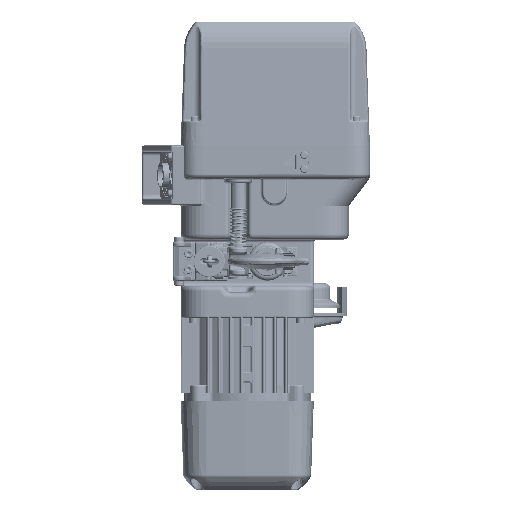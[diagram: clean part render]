
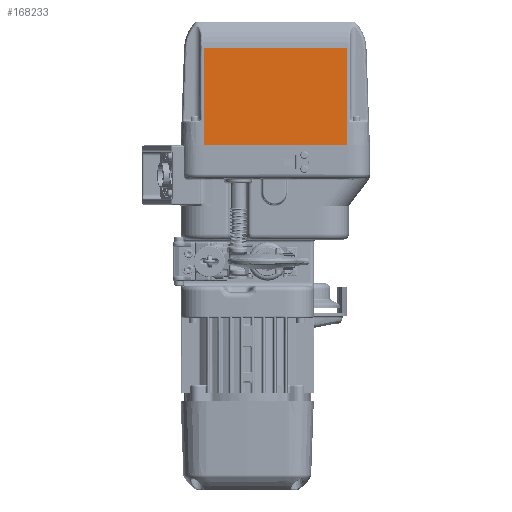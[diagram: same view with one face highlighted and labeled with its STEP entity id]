
A CAD part, front view. The second image highlights one B-rep face of the part: STEP entity #168233.
In plain terms, the highlighted planar face has unit normal (0, -0.999, 0.035).
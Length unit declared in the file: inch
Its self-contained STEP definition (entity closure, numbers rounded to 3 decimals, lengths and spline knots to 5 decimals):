
#2674 = CARTESIAN_POINT ( 'NONE',  ( 3.22231, -3.13544, 4.35172 ) ) ;
#6346 = AXIS2_PLACEMENT_3D ( 'NONE', #86728, #178699, #133786 ) ;
#14472 = CARTESIAN_POINT ( 'NONE',  ( -3.22231, -3.2874, 0. ) ) ;
#23491 = PLANE ( 'NONE',  #6346 ) ;
#25380 = VECTOR ( 'NONE', #70191, 39.37008 ) ;
#50451 = VECTOR ( 'NONE', #57363, 39.37008 ) ;
#56444 = ORIENTED_EDGE ( 'NONE', *, *, #132779, .F. ) ;
#57363 = DIRECTION ( 'NONE',  ( 0., -0.035, -0.999 ) ) ;
#61024 = VERTEX_POINT ( 'NONE', #148950 ) ;
#62655 = VERTEX_POINT ( 'NONE', #82176 ) ;
#69395 = LINE ( 'NONE', #129708, #79610 ) ;
#70191 = DIRECTION ( 'NONE',  ( 0., -0.035, -0.999 ) ) ;
#72135 = CARTESIAN_POINT ( 'NONE',  ( -3.22231, -3.2874, 0. ) ) ;
#76557 = EDGE_CURVE ( 'NONE', #62655, #184445, #69395, .T. ) ;
#76721 = LINE ( 'NONE', #14472, #50451 ) ;
#79610 = VECTOR ( 'NONE', #163330, 39.37008 ) ;
#82176 = CARTESIAN_POINT ( 'NONE',  ( 3.22231, -3.2874, 0. ) ) ;
#86461 = LINE ( 'NONE', #147808, #25380 ) ;
#86728 = CARTESIAN_POINT ( 'NONE',  ( 0., -3.2874, 0. ) ) ;
#98121 = ORIENTED_EDGE ( 'NONE', *, *, #147668, .T. ) ;
#112256 = ORIENTED_EDGE ( 'NONE', *, *, #76557, .F. ) ;
#127071 = EDGE_CURVE ( 'NONE', #61024, #184445, #76721, .T. ) ;
#129708 = CARTESIAN_POINT ( 'NONE',  ( 0., -3.2874, 0. ) ) ;
#131778 = FACE_OUTER_BOUND ( 'NONE', #170824, .T. ) ;
#132779 = EDGE_CURVE ( 'NONE', #177283, #62655, #86461, .T. ) ;
#133786 = DIRECTION ( 'NONE',  ( 0., -0.035, -0.999 ) ) ;
#146825 = VECTOR ( 'NONE', #160158, 39.37008 ) ;
#147668 = EDGE_CURVE ( 'NONE', #177283, #61024, #187789, .T. ) ;
#147808 = CARTESIAN_POINT ( 'NONE',  ( 3.22231, -3.2874, 0. ) ) ;
#148950 = CARTESIAN_POINT ( 'NONE',  ( -3.22231, -3.13544, 4.35172 ) ) ;
#160158 = DIRECTION ( 'NONE',  ( -1., 0., 0. ) ) ;
#163330 = DIRECTION ( 'NONE',  ( -1., 0., 0. ) ) ;
#168233 = ADVANCED_FACE ( 'NONE', ( #131778 ), #23491, .T. ) ;
#170824 = EDGE_LOOP ( 'NONE', ( #98121, #189104, #112256, #56444 ) ) ;
#172455 = CARTESIAN_POINT ( 'NONE',  ( 3.22231, -3.13544, 4.35172 ) ) ;
#177283 = VERTEX_POINT ( 'NONE', #2674 ) ;
#178699 = DIRECTION ( 'NONE',  ( 0., -0.999, 0.035 ) ) ;
#184445 = VERTEX_POINT ( 'NONE', #72135 ) ;
#187789 = LINE ( 'NONE', #172455, #146825 ) ;
#189104 = ORIENTED_EDGE ( 'NONE', *, *, #127071, .T. ) ;
